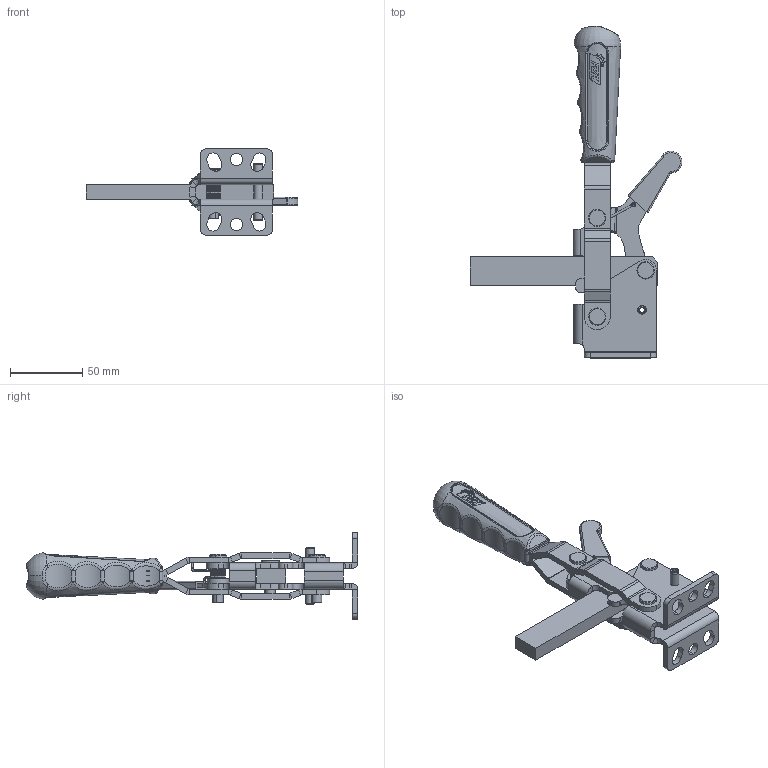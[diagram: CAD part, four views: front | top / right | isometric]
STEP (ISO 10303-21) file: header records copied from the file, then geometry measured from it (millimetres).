
FILE_DESCRIPTION (( 'STEP AP214' ), '1' );
FILE_NAME ('203_BL-K.STEP', '2024-09-09T16:29:46', ( '' ), ( '' ), 'SwSTEP 2.0', 'SolidWorks 2023', '' );
FILE_SCHEMA (( 'AUTOMOTIVE_DESIGN' ));
Length unit declared in the file: millimetre
Products named in the file (14): FZK_203_B_05_00; 203_BL-K; DALDIRMA SAP; YAY 203_B-K; FZK_203_B_04_00; FZK_203_B_02_00; FZK_203_BL_01_00; TTMK_03_00; FZK_203_B_06_00; FZK_203_B_03_00; FZK_203_B_07_00; Ø6x40 YARIKLI PİM; FZK_203_B-K_01_00; FZK_203_B_03A_00
Assembly tree (17 placements, depth 3):
  203_BL-K
    FZK_203_B_03_00
      FZK_203_B_03A_00  x2
    TTMK_03_00
    FZK_203_B_02_00
    Ø6x40 YARIKLI PİM
    FZK_203_BL_01_00
    FZK_203_B_04_00  x2
    FZK_203_B_07_00  x2
    FZK_203_B_06_00  x2
    FZK_203_B_05_00
    YAY 203_B-K
    FZK_203_B-K_01_00
    DALDIRMA SAP
Bounding box: 146.59 x 229.74 x 60 mm (x, y, z)
Volume: 149749.3 mm3; surface area: 76450.1 mm2
Topology: 16 solids, 16 shells, 1324 faces, 3574 edges, 2284 vertices
Faces by surface type: cylinder 817, bspline 222, plane 208, cone 43, sphere 20, torus 14
Entity records: 47129 total; most frequent: CARTESIAN_POINT 26541, ORIENTED_EDGE 4900, DIRECTION 3096, EDGE_CURVE 2450, VERTEX_POINT 1566, B_SPLINE_CURVE_WITH_KNOTS 1228, AXIS2_PLACEMENT_3D 1169, EDGE_LOOP 988
